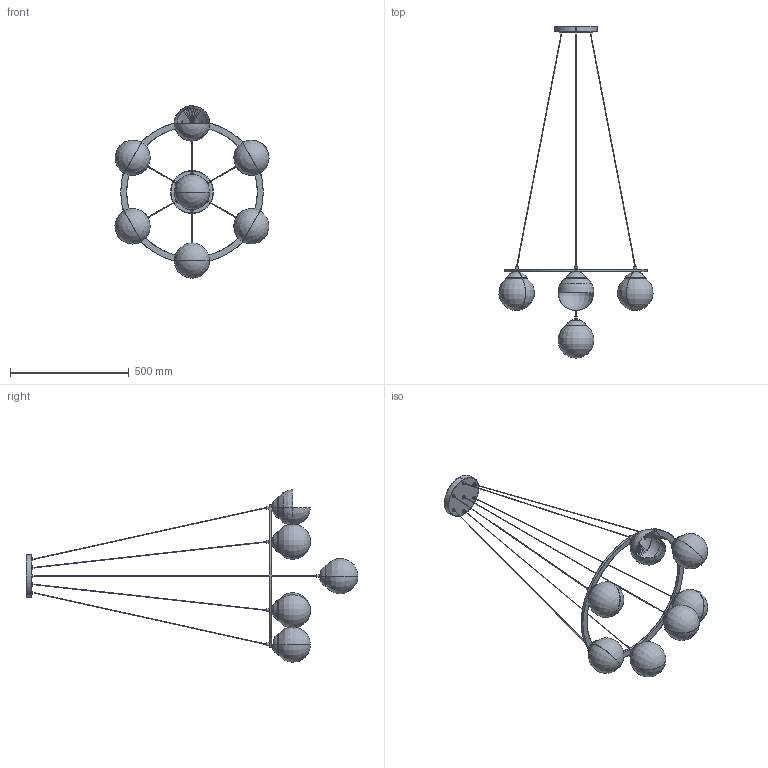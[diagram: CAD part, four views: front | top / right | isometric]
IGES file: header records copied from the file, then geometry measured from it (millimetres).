
Start section: SolidWorks IGES file using analytic representation for surfaces
Global section: file name: F:\燠隴矨\3D\2024-3堎\Nuura Miira Wood Chandelier-7heads.IGS; native system: SolidWorks 2022; preprocessor: SolidWorks 2022; author: MyPC; date: 240304.095654; units: millimetre
Bounding box: 649.04 x 1398.33 x 726.47 mm (x, y, z)
Surface area: 1279156.1 mm2 (no closed solid volume)
Topology: 0 solids, 0 shells, 195 faces, 4184 edges, 4170 vertices
Faces by surface type: revolution 122, bspline 73
